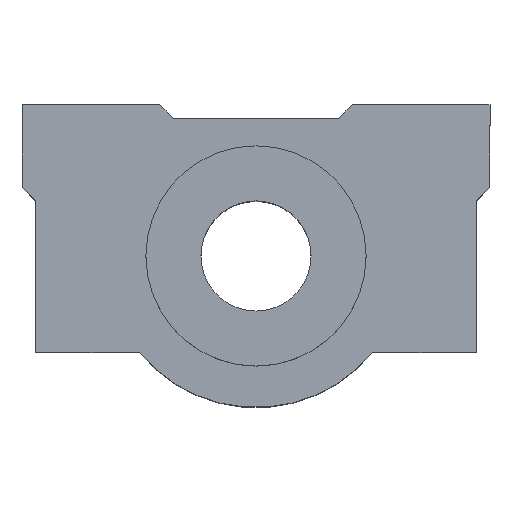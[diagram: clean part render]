
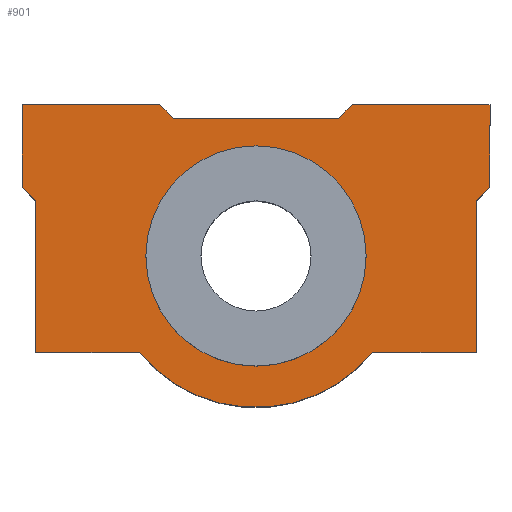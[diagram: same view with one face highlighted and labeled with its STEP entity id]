
A CAD part, top view. The second image highlights one B-rep face of the part: STEP entity #901.
In plain terms, the highlighted planar face has unit normal (0, 0, 1).
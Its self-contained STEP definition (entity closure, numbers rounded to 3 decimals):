
#133=CARTESIAN_POINT('',(-8.709,4.198,19.7));
#134=VERTEX_POINT('',#133);
#143=CARTESIAN_POINT('',(7.291,4.198,19.7));
#144=VERTEX_POINT('',#143);
#145=CARTESIAN_POINT('',(-0.709,4.198,19.7));
#146=DIRECTION('',(0.0,0.0,1.0));
#147=DIRECTION('',(-1.0,0.0,0.0));
#148=AXIS2_PLACEMENT_3D('',#145,#146,#147);
#149=CIRCLE('',#148,8.);
#150=EDGE_CURVE('',#134,#144,#149,.T.);
#522=CARTESIAN_POINT('',(16.291,9.198,19.7));
#523=VERTEX_POINT('',#522);
#524=CARTESIAN_POINT('',(15.291,8.198,19.7));
#525=VERTEX_POINT('',#524);
#526=CARTESIAN_POINT('',(16.291,9.198,19.7));
#527=DIRECTION('',(-0.707,-0.707,0.0));
#528=VECTOR('',#527,1.414);
#529=LINE('',#526,#528);
#530=EDGE_CURVE('',#523,#525,#529,.T.);
#553=CARTESIAN_POINT('',(15.291,-2.802,19.7));
#554=VERTEX_POINT('',#553);
#555=CARTESIAN_POINT('',(15.291,8.198,19.7));
#556=DIRECTION('',(0.0,-1.0,0.0));
#557=VECTOR('',#556,11.);
#558=LINE('',#555,#557);
#559=EDGE_CURVE('',#525,#554,#558,.T.);
#577=CARTESIAN_POINT('',(7.776,-2.802,19.7));
#578=VERTEX_POINT('',#577);
#579=CARTESIAN_POINT('',(15.291,-2.802,19.7));
#580=DIRECTION('',(-1.0,0.0,0.0));
#581=VECTOR('',#580,7.515);
#582=LINE('',#579,#581);
#583=EDGE_CURVE('',#554,#578,#582,.T.);
#605=CARTESIAN_POINT('',(-9.194,-2.802,19.7));
#606=VERTEX_POINT('',#605);
#607=CARTESIAN_POINT('',(-0.709,4.198,19.7));
#608=DIRECTION('',(0.0,0.0,-1.0));
#609=DIRECTION('',(0.771,0.636,0.0));
#610=AXIS2_PLACEMENT_3D('',#607,#608,#609);
#611=CIRCLE('',#610,11.0);
#612=EDGE_CURVE('',#578,#606,#611,.T.);
#630=CARTESIAN_POINT('',(-16.709,-2.802,19.7));
#631=VERTEX_POINT('',#630);
#632=CARTESIAN_POINT('',(-9.194,-2.802,19.7));
#633=DIRECTION('',(-1.0,0.0,0.0));
#634=VECTOR('',#633,7.515);
#635=LINE('',#632,#634);
#636=EDGE_CURVE('',#606,#631,#635,.T.);
#658=CARTESIAN_POINT('',(-16.709,8.198,19.7));
#659=VERTEX_POINT('',#658);
#660=CARTESIAN_POINT('',(-16.709,-2.802,19.7));
#661=DIRECTION('',(0.0,1.0,0.0));
#662=VECTOR('',#661,11.);
#663=LINE('',#660,#662);
#664=EDGE_CURVE('',#631,#659,#663,.T.);
#682=CARTESIAN_POINT('',(-17.709,9.198,19.7));
#683=VERTEX_POINT('',#682);
#684=CARTESIAN_POINT('',(-16.709,8.198,19.7));
#685=DIRECTION('',(-0.707,0.707,0.0));
#686=VECTOR('',#685,1.414);
#687=LINE('',#684,#686);
#688=EDGE_CURVE('',#659,#683,#687,.T.);
#706=CARTESIAN_POINT('',(-17.709,15.198,19.7));
#707=VERTEX_POINT('',#706);
#708=CARTESIAN_POINT('',(-17.709,9.198,19.7));
#709=DIRECTION('',(0.0,1.0,0.0));
#710=VECTOR('',#709,6.);
#711=LINE('',#708,#710);
#712=EDGE_CURVE('',#683,#707,#711,.T.);
#730=CARTESIAN_POINT('',(-7.709,15.198,19.7));
#731=VERTEX_POINT('',#730);
#732=CARTESIAN_POINT('',(-17.709,15.198,19.7));
#733=DIRECTION('',(1.0,0.0,0.0));
#734=VECTOR('',#733,10.0);
#735=LINE('',#732,#734);
#736=EDGE_CURVE('',#707,#731,#735,.T.);
#758=CARTESIAN_POINT('',(-6.709,14.198,19.7));
#759=VERTEX_POINT('',#758);
#760=CARTESIAN_POINT('',(-7.709,15.198,19.7));
#761=DIRECTION('',(0.707,-0.707,0.0));
#762=VECTOR('',#761,1.414);
#763=LINE('',#760,#762);
#764=EDGE_CURVE('',#731,#759,#763,.T.);
#782=CARTESIAN_POINT('',(5.291,14.198,19.7));
#783=VERTEX_POINT('',#782);
#784=CARTESIAN_POINT('',(-6.709,14.198,19.7));
#785=DIRECTION('',(1.0,0.0,0.0));
#786=VECTOR('',#785,12.);
#787=LINE('',#784,#786);
#788=EDGE_CURVE('',#759,#783,#787,.T.);
#806=CARTESIAN_POINT('',(6.291,15.198,19.7));
#807=VERTEX_POINT('',#806);
#808=CARTESIAN_POINT('',(5.291,14.198,19.7));
#809=DIRECTION('',(0.707,0.707,0.0));
#810=VECTOR('',#809,1.414);
#811=LINE('',#808,#810);
#812=EDGE_CURVE('',#783,#807,#811,.T.);
#830=CARTESIAN_POINT('',(16.291,15.198,19.7));
#831=VERTEX_POINT('',#830);
#832=CARTESIAN_POINT('',(6.291,15.198,19.7));
#833=DIRECTION('',(1.0,0.0,0.0));
#834=VECTOR('',#833,10.);
#835=LINE('',#832,#834);
#836=EDGE_CURVE('',#807,#831,#835,.T.);
#858=CARTESIAN_POINT('',(16.291,15.198,19.7));
#859=DIRECTION('',(0.0,-1.0,0.0));
#860=VECTOR('',#859,6.0);
#861=LINE('',#858,#860);
#862=EDGE_CURVE('',#831,#523,#861,.T.);
#870=CARTESIAN_POINT('',(-0.709,5.694,19.7));
#871=DIRECTION('',(0.0,0.0,1.0));
#872=DIRECTION('',(1.0,0.0,0.0));
#873=AXIS2_PLACEMENT_3D('',#870,#871,#872);
#874=PLANE('',#873);
#875=ORIENTED_EDGE('',*,*,#530,.F.);
#876=ORIENTED_EDGE('',*,*,#862,.F.);
#877=ORIENTED_EDGE('',*,*,#836,.F.);
#878=ORIENTED_EDGE('',*,*,#812,.F.);
#879=ORIENTED_EDGE('',*,*,#788,.F.);
#880=ORIENTED_EDGE('',*,*,#764,.F.);
#881=ORIENTED_EDGE('',*,*,#736,.F.);
#882=ORIENTED_EDGE('',*,*,#712,.F.);
#883=ORIENTED_EDGE('',*,*,#688,.F.);
#884=ORIENTED_EDGE('',*,*,#664,.F.);
#885=ORIENTED_EDGE('',*,*,#636,.F.);
#886=ORIENTED_EDGE('',*,*,#612,.F.);
#887=ORIENTED_EDGE('',*,*,#583,.F.);
#888=ORIENTED_EDGE('',*,*,#559,.F.);
#889=EDGE_LOOP('',(#875,#876,#877,#878,#879,#880,#881,#882,#883,#884,#885,#886,#887,#888));
#890=FACE_OUTER_BOUND('',#889,.T.);
#891=CARTESIAN_POINT('',(-0.709,4.198,19.7));
#892=DIRECTION('',(0.0,0.0,1.0));
#893=DIRECTION('',(-1.0,0.0,0.0));
#894=AXIS2_PLACEMENT_3D('',#891,#892,#893);
#895=CIRCLE('',#894,8.);
#896=EDGE_CURVE('',#144,#134,#895,.T.);
#897=ORIENTED_EDGE('',*,*,#896,.F.);
#898=ORIENTED_EDGE('',*,*,#150,.F.);
#899=EDGE_LOOP('',(#897,#898));
#900=FACE_BOUND('',#899,.T.);
#901=ADVANCED_FACE('',(#890,#900),#874,.T.);
